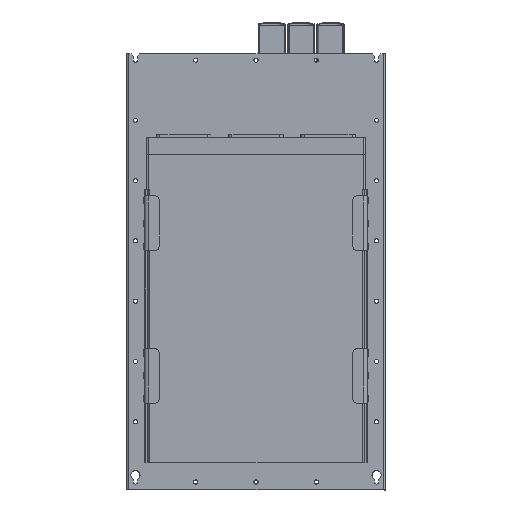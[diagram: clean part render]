
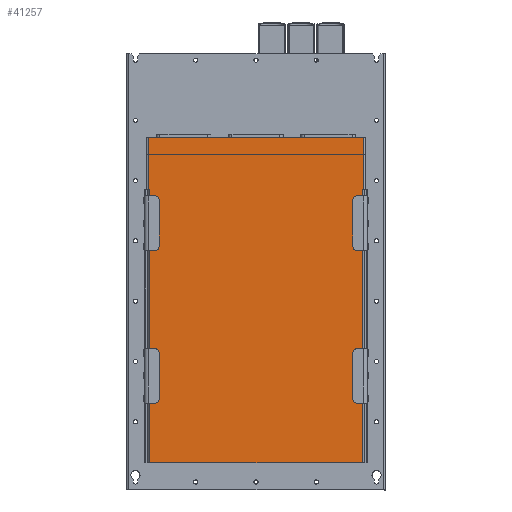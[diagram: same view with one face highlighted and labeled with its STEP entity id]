
A CAD part, front view. The second image highlights one B-rep face of the part: STEP entity #41257.
In plain terms, the highlighted planar face has unit normal (0, -1, 0).
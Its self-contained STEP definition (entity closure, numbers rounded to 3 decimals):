
#4124 = EDGE_CURVE ( 'NONE', #36208, #58423, #30139, .T. ) ;
#4205 = CARTESIAN_POINT ( 'NONE',  ( -236., -125., 0. ) ) ;
#4515 = DIRECTION ( 'NONE',  ( 1., 0., 0. ) ) ;
#6488 = ORIENTED_EDGE ( 'NONE', *, *, #41776, .T. ) ;
#6633 = CARTESIAN_POINT ( 'NONE',  ( -244., -125., -598. ) ) ;
#8933 = VERTEX_POINT ( 'NONE', #95932 ) ;
#9955 = CARTESIAN_POINT ( 'NONE',  ( 233., -125., -598. ) ) ;
#11558 = EDGE_CURVE ( 'NONE', #19899, #36208, #62596, .T. ) ;
#12456 = CARTESIAN_POINT ( 'NONE',  ( 236., -125., 0. ) ) ;
#13247 = EDGE_CURVE ( 'NONE', #77656, #24460, #57209, .T. ) ;
#13452 = CARTESIAN_POINT ( 'NONE',  ( -236., -125., 0. ) ) ;
#13765 = ORIENTED_EDGE ( 'NONE', *, *, #11558, .T. ) ;
#19899 = VERTEX_POINT ( 'NONE', #4205 ) ;
#22676 = CARTESIAN_POINT ( 'NONE',  ( -236., -125., 0. ) ) ;
#24460 = VERTEX_POINT ( 'NONE', #12456 ) ;
#25963 = EDGE_CURVE ( 'NONE', #61618, #77656, #92166, .T. ) ;
#30139 = LINE ( 'NONE', #89460, #104228 ) ;
#32584 = DIRECTION ( 'NONE',  ( 0., 0., 1. ) ) ;
#32812 = DIRECTION ( 'NONE',  ( 0., 0., 1. ) ) ;
#36208 = VERTEX_POINT ( 'NONE', #75600 ) ;
#36312 = CARTESIAN_POINT ( 'NONE',  ( -236., -125., 115. ) ) ;
#38562 = VECTOR ( 'NONE', #61954, 1000. ) ;
#39947 = DIRECTION ( 'NONE',  ( 1., 0., 0. ) ) ;
#40153 = LINE ( 'NONE', #106526, #102707 ) ;
#40230 = VECTOR ( 'NONE', #68666, 1000. ) ;
#41243 = CARTESIAN_POINT ( 'NONE',  ( -233., -125., -598. ) ) ;
#41257 = ADVANCED_FACE ( 'NONE', ( #45197 ), #78079, .F. ) ;
#41776 = EDGE_CURVE ( 'NONE', #24460, #91664, #40153, .T. ) ;
#44418 = LINE ( 'NONE', #36312, #40230 ) ;
#45197 = FACE_OUTER_BOUND ( 'NONE', #71103, .T. ) ;
#45391 = ORIENTED_EDGE ( 'NONE', *, *, #4124, .T. ) ;
#45807 = VECTOR ( 'NONE', #4515, 1000. ) ;
#47165 = LINE ( 'NONE', #6633, #45807 ) ;
#49226 = VECTOR ( 'NONE', #39947, 1000. ) ;
#53299 = DIRECTION ( 'NONE',  ( 0., 1., 0. ) ) ;
#57209 = LINE ( 'NONE', #22676, #49226 ) ;
#58423 = VERTEX_POINT ( 'NONE', #41243 ) ;
#60595 = EDGE_CURVE ( 'NONE', #91664, #8933, #71619, .T. ) ;
#61618 = VERTEX_POINT ( 'NONE', #9955 ) ;
#61954 = DIRECTION ( 'NONE',  ( -1., 0., 0. ) ) ;
#62596 = LINE ( 'NONE', #13452, #64102 ) ;
#64102 = VECTOR ( 'NONE', #102046, 1000. ) ;
#67550 = VECTOR ( 'NONE', #32812, 1000. ) ;
#68666 = DIRECTION ( 'NONE',  ( 0., 0., -1. ) ) ;
#71103 = EDGE_LOOP ( 'NONE', ( #45391, #78651, #88355, #83087, #6488, #81492, #104822, #13765 ) ) ;
#71619 = LINE ( 'NONE', #104018, #38562 ) ;
#75600 = CARTESIAN_POINT ( 'NONE',  ( -233., -125., 0. ) ) ;
#77656 = VERTEX_POINT ( 'NONE', #105931 ) ;
#78079 = PLANE ( 'NONE',  #102637 ) ;
#78651 = ORIENTED_EDGE ( 'NONE', *, *, #81772, .T. ) ;
#81492 = ORIENTED_EDGE ( 'NONE', *, *, #60595, .T. ) ;
#81772 = EDGE_CURVE ( 'NONE', #58423, #61618, #47165, .T. ) ;
#83087 = ORIENTED_EDGE ( 'NONE', *, *, #13247, .T. ) ;
#86198 = DIRECTION ( 'NONE',  ( 0., 0., -1. ) ) ;
#86651 = CARTESIAN_POINT ( 'NONE',  ( 236., -125., 115. ) ) ;
#88355 = ORIENTED_EDGE ( 'NONE', *, *, #25963, .T. ) ;
#89460 = CARTESIAN_POINT ( 'NONE',  ( -233., -125., 0. ) ) ;
#90553 = DIRECTION ( 'NONE',  ( 0., 0., -1. ) ) ;
#91664 = VERTEX_POINT ( 'NONE', #86651 ) ;
#92166 = LINE ( 'NONE', #99740, #67550 ) ;
#94313 = CARTESIAN_POINT ( 'NONE',  ( 224., -125., -800. ) ) ;
#95932 = CARTESIAN_POINT ( 'NONE',  ( -236., -125., 115. ) ) ;
#99740 = CARTESIAN_POINT ( 'NONE',  ( 233., -125., -800. ) ) ;
#102046 = DIRECTION ( 'NONE',  ( 1., 0., 0. ) ) ;
#102637 = AXIS2_PLACEMENT_3D ( 'NONE', #94313, #53299, #86198 ) ;
#102707 = VECTOR ( 'NONE', #32584, 1000. ) ;
#104018 = CARTESIAN_POINT ( 'NONE',  ( -239.5, -125., 115. ) ) ;
#104228 = VECTOR ( 'NONE', #90553, 1000. ) ;
#104822 = ORIENTED_EDGE ( 'NONE', *, *, #104961, .T. ) ;
#104961 = EDGE_CURVE ( 'NONE', #8933, #19899, #44418, .T. ) ;
#105931 = CARTESIAN_POINT ( 'NONE',  ( 233., -125., 0. ) ) ;
#106526 = CARTESIAN_POINT ( 'NONE',  ( 236., -125., 0. ) ) ;
